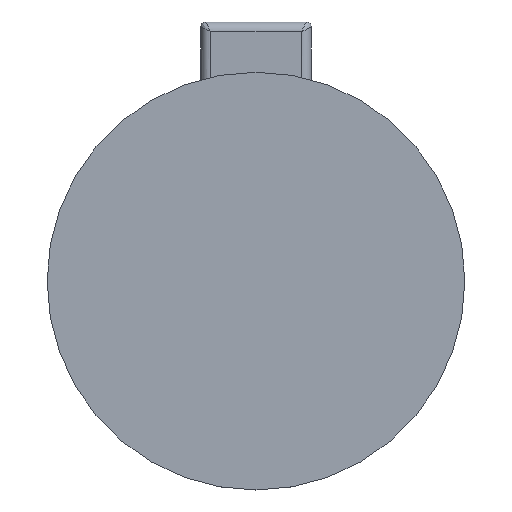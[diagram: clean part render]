
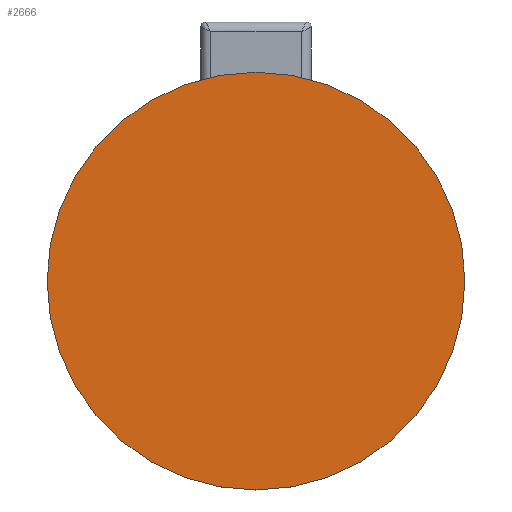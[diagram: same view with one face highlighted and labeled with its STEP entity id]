
A CAD part, top view. The second image highlights one B-rep face of the part: STEP entity #2666.
In plain terms, the highlighted planar face has unit normal (0, 0, 1).
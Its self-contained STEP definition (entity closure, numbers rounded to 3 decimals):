
#173 = CIRCLE ( 'NONE', #543, 85. ) ;
#177 = CARTESIAN_POINT ( 'NONE',  ( 10.218, 13.662, 172. ) ) ;
#193 = ORIENTED_EDGE ( 'NONE', *, *, #1686, .T. ) ;
#256 = CIRCLE ( 'NONE', #712, 85. ) ;
#356 = CARTESIAN_POINT ( 'NONE',  ( 95.218, 13.662, 172. ) ) ;
#423 = CARTESIAN_POINT ( 'NONE',  ( 10.218, 13.662, 172. ) ) ;
#439 = EDGE_CURVE ( 'NONE', #2731, #2009, #256, .T. ) ;
#467 = EDGE_LOOP ( 'NONE', ( #1324, #193 ) ) ;
#543 = AXIS2_PLACEMENT_3D ( 'NONE', #423, #2201, #1332 ) ;
#712 = AXIS2_PLACEMENT_3D ( 'NONE', #177, #1079, #1983 ) ;
#1079 = DIRECTION ( 'NONE',  ( 0., 0., 1. ) ) ;
#1160 = CARTESIAN_POINT ( 'NONE',  ( -74.782, 13.662, 172. ) ) ;
#1324 = ORIENTED_EDGE ( 'NONE', *, *, #439, .T. ) ;
#1332 = DIRECTION ( 'NONE',  ( 1., 0., 0. ) ) ;
#1342 = DIRECTION ( 'NONE',  ( 0., 0., 1. ) ) ;
#1356 = CARTESIAN_POINT ( 'NONE',  ( 10.218, 41.162, 172. ) ) ;
#1559 = PLANE ( 'NONE',  #1912 ) ;
#1587 = FACE_OUTER_BOUND ( 'NONE', #467, .T. ) ;
#1686 = EDGE_CURVE ( 'NONE', #2009, #2731, #173, .T. ) ;
#1912 = AXIS2_PLACEMENT_3D ( 'NONE', #1356, #1342, #2882 ) ;
#1983 = DIRECTION ( 'NONE',  ( 1., 0., 0. ) ) ;
#2009 = VERTEX_POINT ( 'NONE', #356 ) ;
#2201 = DIRECTION ( 'NONE',  ( 0., 0., 1. ) ) ;
#2666 = ADVANCED_FACE ( 'NONE', ( #1587 ), #1559, .T. ) ;
#2731 = VERTEX_POINT ( 'NONE', #1160 ) ;
#2882 = DIRECTION ( 'NONE',  ( 1., 0., 0. ) ) ;
